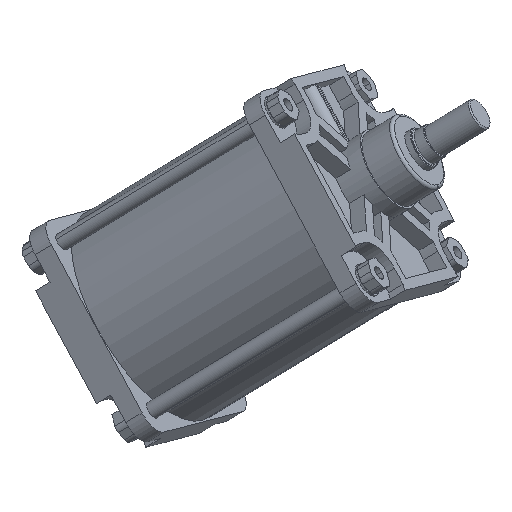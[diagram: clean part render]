
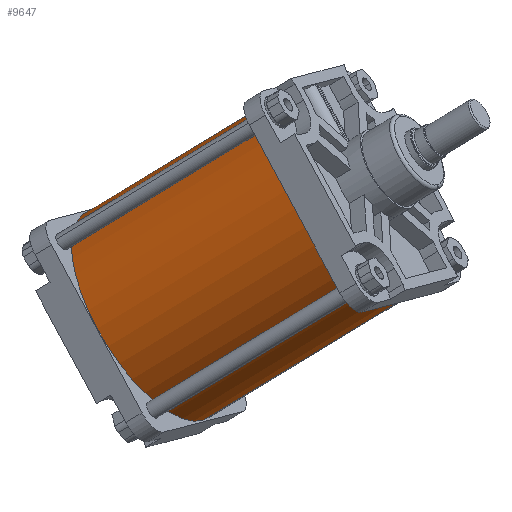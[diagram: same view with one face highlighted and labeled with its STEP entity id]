
A CAD part, top view. The second image highlights one B-rep face of the part: STEP entity #9647.
In plain terms, the highlighted cylindrical face has radius 168 mm (diameter 336 mm), a partial arc.
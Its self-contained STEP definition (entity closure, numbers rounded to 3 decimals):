
#8886=CARTESIAN_POINT('Vertex',(0.,168.,0.)) ;
#8888=CARTESIAN_POINT('Vertex',(0.,-168.,0.)) ;
#8891=CARTESIAN_POINT('Axis2P3D Location',(0.,0.,0.)) ;
#9605=CARTESIAN_POINT('Axis2P3D Location',(-178.,0.,0.)) ;
#9610=CARTESIAN_POINT('Line Origine',(-178.,168.,0.)) ;
#9614=CARTESIAN_POINT('Vertex',(-356.,168.,0.)) ;
#9617=CARTESIAN_POINT('Line Origine',(-178.,-168.,0.)) ;
#9621=CARTESIAN_POINT('Vertex',(-356.,-168.,0.)) ;
#9636=CARTESIAN_POINT('Axis2P3D Location',(-356.,0.,0.)) ;
#8892=DIRECTION('Axis2P3D Direction',(1.,0.,0.)) ;
#9606=DIRECTION('Axis2P3D Direction',(-1.,-0.,0.)) ;
#9607=DIRECTION('Axis2P3D XDirection',(0.,-1.,0.)) ;
#9611=DIRECTION('Vector Direction',(-1.,0.,0.)) ;
#9618=DIRECTION('Vector Direction',(-1.,0.,0.)) ;
#9637=DIRECTION('Axis2P3D Direction',(-1.,-0.,0.)) ;
#8893=AXIS2_PLACEMENT_3D('Circle Axis2P3D',#8891,#8892,$) ;
#9608=AXIS2_PLACEMENT_3D('Cylinder Axis2P3D',#9605,#9606,#9607) ;
#9638=AXIS2_PLACEMENT_3D('Circle Axis2P3D',#9636,#9637,$) ;
#9642=ORIENTED_EDGE('',*,*,#9623,.F.) ;
#9643=ORIENTED_EDGE('',*,*,#8895,.T.) ;
#9644=ORIENTED_EDGE('',*,*,#9616,.T.) ;
#9645=ORIENTED_EDGE('',*,*,#9640,.F.) ;
#9612=VECTOR('Line Direction',#9611,1.) ;
#9619=VECTOR('Line Direction',#9618,1.) ;
#9647=ADVANCED_FACE('PartBody',(#9646),#9609,.T.) ;
#8894=CIRCLE('generated circle',#8893,168.) ;
#9639=CIRCLE('generated circle',#9638,168.) ;
#9609=CYLINDRICAL_SURFACE('generated cylinder',#9608,168.) ;
#8895=EDGE_CURVE('',#8889,#8887,#8894,.F.) ;
#9616=EDGE_CURVE('',#8887,#9615,#9613,.T.) ;
#9623=EDGE_CURVE('',#8889,#9622,#9620,.T.) ;
#9640=EDGE_CURVE('',#9622,#9615,#9639,.T.) ;
#9641=EDGE_LOOP('',(#9642,#9643,#9644,#9645)) ;
#9646=FACE_OUTER_BOUND('',#9641,.T.) ;
#9613=LINE('Line',#9610,#9612) ;
#9620=LINE('Line',#9617,#9619) ;
#8887=VERTEX_POINT('',#8886) ;
#8889=VERTEX_POINT('',#8888) ;
#9615=VERTEX_POINT('',#9614) ;
#9622=VERTEX_POINT('',#9621) ;
